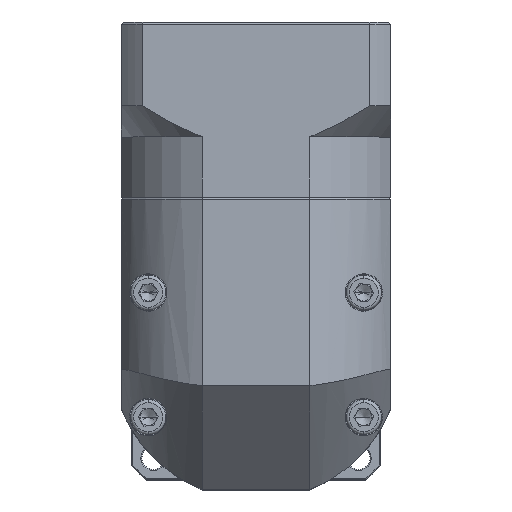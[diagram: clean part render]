
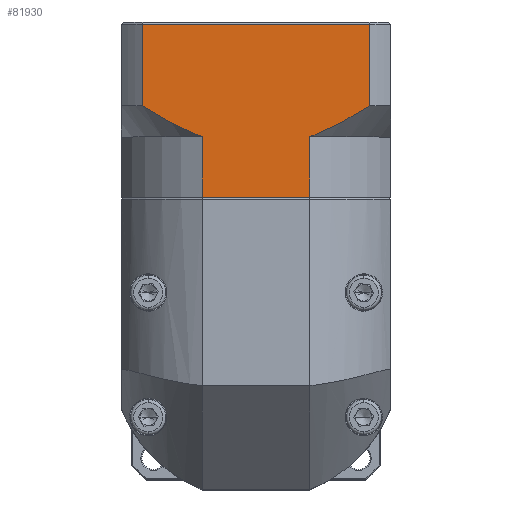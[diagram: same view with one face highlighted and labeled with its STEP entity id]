
A CAD part, top view. The second image highlights one B-rep face of the part: STEP entity #81930.
In plain terms, the highlighted planar face has unit normal (0, 0, 1).
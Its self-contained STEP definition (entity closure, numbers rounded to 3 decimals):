
#932 = CARTESIAN_POINT ( 'NONE',  ( -30.551, 86.812, 47.226 ) ) ;
#1674 = CARTESIAN_POINT ( 'NONE',  ( -25.758, 89.322, 47.226 ) ) ;
#2266 = ORIENTED_EDGE ( 'NONE', *, *, #106273, .T. ) ;
#2619 = EDGE_CURVE ( 'NONE', #109909, #34338, #6289, .T. ) ;
#6289 = LINE ( 'NONE', #14192, #47935 ) ;
#6879 = CARTESIAN_POINT ( 'NONE',  ( -75.948, 111.871, 47.226 ) ) ;
#7381 = EDGE_CURVE ( 'NONE', #102798, #114218, #114759, .T. ) ;
#10696 = VECTOR ( 'NONE', #83044, 1000. ) ;
#12520 = CARTESIAN_POINT ( 'NONE',  ( -21.176, 84.671, 47.226 ) ) ;
#14054 = VECTOR ( 'NONE', #112005, 1000. ) ;
#14192 = CARTESIAN_POINT ( 'NONE',  ( -35.571, 84.671, 47.226 ) ) ;
#16222 = EDGE_CURVE ( 'NONE', #55006, #61234, #100627, .T. ) ;
#16356 = CARTESIAN_POINT ( 'NONE',  ( -81.062, 111.871, 47.226 ) ) ;
#17571 = CARTESIAN_POINT ( 'NONE',  ( -21.176, 92.171, 47.226 ) ) ;
#18421 = CARTESIAN_POINT ( 'NONE',  ( -35.571, 84.671, 47.226 ) ) ;
#21151 = AXIS2_PLACEMENT_3D ( 'NONE', #99099, #107734, #46097 ) ;
#22146 = CARTESIAN_POINT ( 'NONE',  ( -61.552, 84.671, 47.226 ) ) ;
#26816 = CARTESIAN_POINT ( 'NONE',  ( -23.444, 90.71, 47.226 ) ) ;
#27557 = ORIENTED_EDGE ( 'NONE', *, *, #52570, .F. ) ;
#28325 = CARTESIAN_POINT ( 'NONE',  ( -35.571, 84.671, 47.226 ) ) ;
#30499 = DIRECTION ( 'NONE',  ( 0., -1., 0. ) ) ;
#31862 = CARTESIAN_POINT ( 'NONE',  ( -74.81, 91.438, 47.226 ) ) ;
#34338 = VERTEX_POINT ( 'NONE', #97095 ) ;
#35464 = VECTOR ( 'NONE', #73548, 1000. ) ;
#40733 = CARTESIAN_POINT ( 'NONE',  ( -71.324, 89.338, 47.226 ) ) ;
#41345 = VECTOR ( 'NONE', #78681, 1000. ) ;
#44695 = CARTESIAN_POINT ( 'NONE',  ( -34.29, 85.162, 47.226 ) ) ;
#46097 = DIRECTION ( 'NONE',  ( 0., 1., 0. ) ) ;
#47785 = ORIENTED_EDGE ( 'NONE', *, *, #62023, .T. ) ;
#47935 = VECTOR ( 'NONE', #30499, 1000. ) ;
#50404 = ORIENTED_EDGE ( 'NONE', *, *, #2619, .F. ) ;
#52570 = EDGE_CURVE ( 'NONE', #55006, #99275, #90334, .T. ) ;
#52688 = EDGE_LOOP ( 'NONE', ( #86360, #73047, #27557, #95422, #56727, #2266, #50404, #47785 ) ) ;
#55006 = VERTEX_POINT ( 'NONE', #69674 ) ;
#56727 = ORIENTED_EDGE ( 'NONE', *, *, #92763, .F. ) ;
#57456 = CARTESIAN_POINT ( 'NONE',  ( -73.659, 90.723, 47.226 ) ) ;
#61234 = VERTEX_POINT ( 'NONE', #80837 ) ;
#62023 = EDGE_CURVE ( 'NONE', #109909, #114218, #66103, .T. ) ;
#62843 = CARTESIAN_POINT ( 'NONE',  ( -34.929, 84.91, 47.226 ) ) ;
#64880 = LINE ( 'NONE', #16356, #41345 ) ;
#66103 = B_SPLINE_CURVE_WITH_KNOTS ( 'NONE', 3,
 ( #28325, #62843, #44695, #90383, #89228, #932, #98485, #1674, #26816, #71385 ),
 .UNSPECIFIED., .F., .F.,
 ( 4, 2, 2, 2, 4 ),
 ( 0.101, 0.103, 0.105, 0.109, 0.117 ),
 .UNSPECIFIED. ) ;
#66285 = CARTESIAN_POINT ( 'NONE',  ( -61.552, 84.671, 47.226 ) ) ;
#69627 = FACE_OUTER_BOUND ( 'NONE', #52688, .T. ) ;
#69674 = CARTESIAN_POINT ( 'NONE',  ( -75.948, 92.171, 47.226 ) ) ;
#71385 = CARTESIAN_POINT ( 'NONE',  ( -21.176, 92.171, 47.226 ) ) ;
#73047 = ORIENTED_EDGE ( 'NONE', *, *, #89252, .T. ) ;
#73116 = CARTESIAN_POINT ( 'NONE',  ( -21.176, 111.871, 47.226 ) ) ;
#73548 = DIRECTION ( 'NONE',  ( 1., 0., 0. ) ) ;
#74287 = VERTEX_POINT ( 'NONE', #93455 ) ;
#76337 = CARTESIAN_POINT ( 'NONE',  ( -64.09, 85.613, 47.226 ) ) ;
#78681 = DIRECTION ( 'NONE',  ( -1., 0., 0. ) ) ;
#80837 = CARTESIAN_POINT ( 'NONE',  ( -61.552, 84.671, 47.226 ) ) ;
#81930 = ADVANCED_FACE ( 'NONE', ( #69627 ), #98354, .F. ) ;
#83044 = DIRECTION ( 'NONE',  ( 0., -1., 0. ) ) ;
#85183 = CARTESIAN_POINT ( 'NONE',  ( -75.948, 84.671, 47.226 ) ) ;
#86360 = ORIENTED_EDGE ( 'NONE', *, *, #7381, .F. ) ;
#86938 = LINE ( 'NONE', #66285, #92518 ) ;
#89228 = CARTESIAN_POINT ( 'NONE',  ( -32.405, 85.962, 47.226 ) ) ;
#89252 = EDGE_CURVE ( 'NONE', #102798, #99275, #64880, .T. ) ;
#90334 = LINE ( 'NONE', #85183, #14054 ) ;
#90383 = CARTESIAN_POINT ( 'NONE',  ( -33.029, 85.688, 47.226 ) ) ;
#92518 = VECTOR ( 'NONE', #103131, 1000. ) ;
#92763 = EDGE_CURVE ( 'NONE', #74287, #61234, #86938, .T. ) ;
#93061 = CARTESIAN_POINT ( 'NONE',  ( -66.542, 86.758, 47.226 ) ) ;
#93455 = CARTESIAN_POINT ( 'NONE',  ( -61.552, 70.171, 47.226 ) ) ;
#95422 = ORIENTED_EDGE ( 'NONE', *, *, #16222, .T. ) ;
#97095 = CARTESIAN_POINT ( 'NONE',  ( -35.571, 70.171, 47.226 ) ) ;
#98354 = PLANE ( 'NONE',  #21151 ) ;
#98485 = CARTESIAN_POINT ( 'NONE',  ( -29.339, 87.417, 47.226 ) ) ;
#99099 = CARTESIAN_POINT ( 'NONE',  ( -81.062, 112.371, 47.226 ) ) ;
#99275 = VERTEX_POINT ( 'NONE', #6879 ) ;
#100627 = B_SPLINE_CURVE_WITH_KNOTS ( 'NONE', 3,
 ( #101193, #31862, #57456, #40733, #102739, #93061, #76337, #22146 ),
 .UNSPECIFIED., .F., .F.,
 ( 4, 2, 2, 4 ),
 ( 0.058, 0.062, 0.066, 0.074 ),
 .UNSPECIFIED. ) ;
#100699 = CARTESIAN_POINT ( 'NONE',  ( -81.062, 70.171, 47.226 ) ) ;
#101193 = CARTESIAN_POINT ( 'NONE',  ( -75.948, 92.171, 47.226 ) ) ;
#102739 = CARTESIAN_POINT ( 'NONE',  ( -70.138, 88.668, 47.226 ) ) ;
#102798 = VERTEX_POINT ( 'NONE', #73116 ) ;
#103131 = DIRECTION ( 'NONE',  ( 0., 1., 0. ) ) ;
#106273 = EDGE_CURVE ( 'NONE', #74287, #34338, #113134, .T. ) ;
#107734 = DIRECTION ( 'NONE',  ( 0., 0., -1. ) ) ;
#109909 = VERTEX_POINT ( 'NONE', #18421 ) ;
#112005 = DIRECTION ( 'NONE',  ( 0., 1., 0. ) ) ;
#113134 = LINE ( 'NONE', #100699, #35464 ) ;
#114218 = VERTEX_POINT ( 'NONE', #17571 ) ;
#114759 = LINE ( 'NONE', #12520, #10696 ) ;
